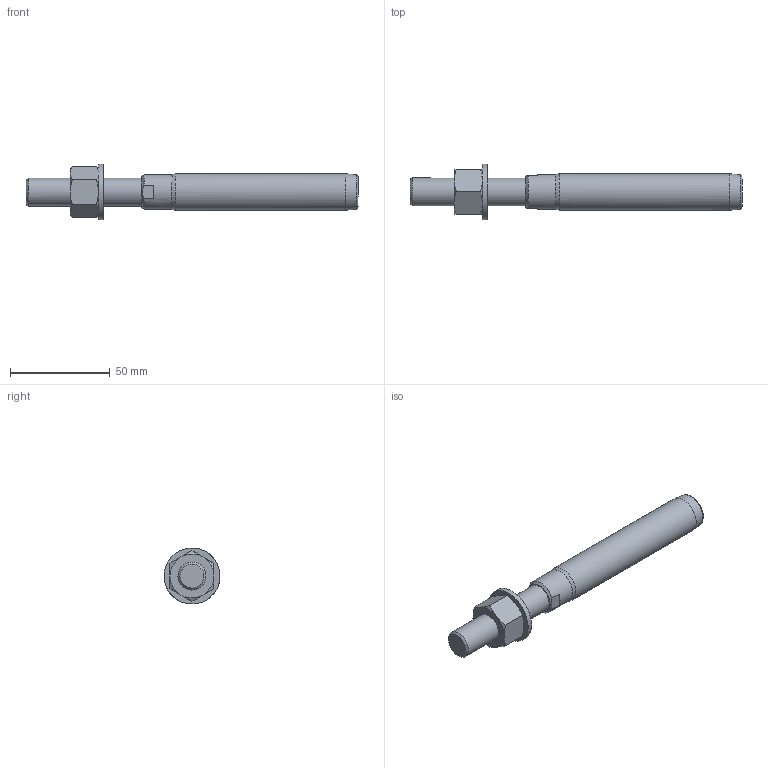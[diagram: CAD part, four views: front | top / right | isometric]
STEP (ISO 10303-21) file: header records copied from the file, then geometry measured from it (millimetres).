
FILE_DESCRIPTION(/* description */ (''),/* implementation_level */ '2;1');
FILE_NAME(/* name */ 'FLT 10_42CrMo4',/* time_stamp */ '2023-05-23T15:57:50+02:00',/* author */ (''),/* organization */ (''),/* preprocessor_version */ 'ST-DEVELOPER v16.5',/* originating_system */ 'Rhino 7.22',/* authorisation */ '');
FILE_SCHEMA (('CONFIG_CONTROL_DESIGN'));
Length unit declared in the file: millimetre
Products named in the file (1): Document
Bounding box: 166 x 28 x 27.97 mm (x, y, z)
Volume: 42095 mm3; surface area: 12447 mm2
Topology: 3 solids, 3 shells, 42 faces, 102 edges, 67 vertices
Faces by surface type: bspline 19, plane 17, cylinder 6
Full cylindrical faces by diameter (mm): 11.835 x1, 14 x1, 15 x1, 17.4 x1, 18.3 x1, 28 x1
Entity records: 1559 total; most frequent: CARTESIAN_POINT 861, ORIENTED_EDGE 204, EDGE_CURVE 102, VERTEX_POINT 67, EDGE_LOOP 47, ADVANCED_FACE 42, FACE_OUTER_BOUND 42, DIRECTION 27
